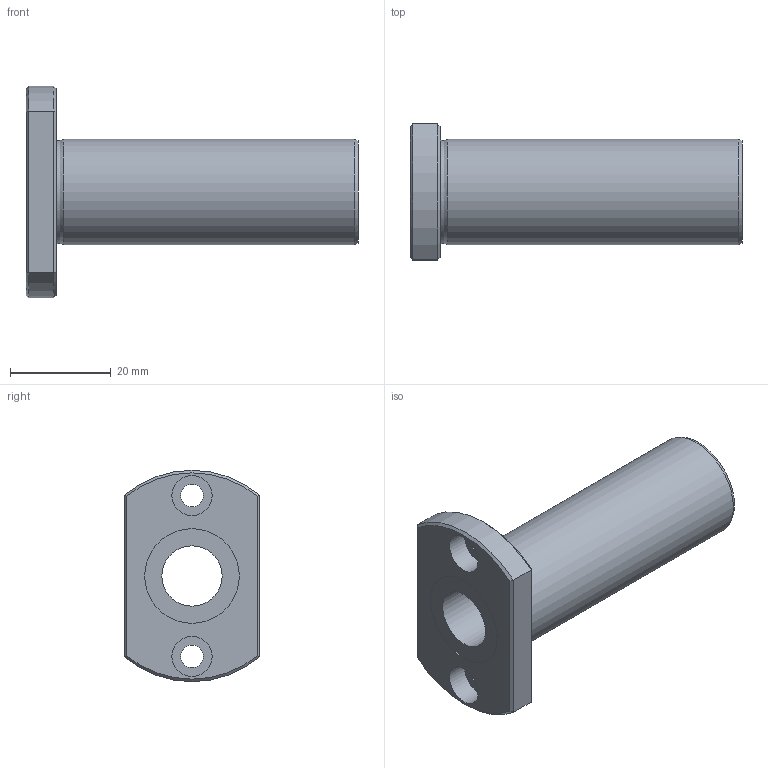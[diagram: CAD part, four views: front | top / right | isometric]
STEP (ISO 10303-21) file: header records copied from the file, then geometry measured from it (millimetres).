
FILE_DESCRIPTION((''),'2;1');
FILE_NAME('D:\製品 (図面)\カタログ用3D\メンテナンスフリー関連\STEP形式\LFDT-MF\LFDT12MF.stp','2010-06-01T15:50:18',('Tsuchiya'),(''),'Autodesk Inventor 10','Autodesk Inventor 10','');
FILE_SCHEMA(('AUTOMOTIVE_DESIGN { 1 0 10303 214 1 1 1 1 }'));
Length unit declared in the file: millimetre
Products named in the file (1): LFDT12MF
Bounding box: 66 x 27 x 42 mm (x, y, z)
Volume: 19040.3 mm3; surface area: 9189.7 mm2
Topology: 1 solids, 1 shells, 29 faces, 56 edges, 34 vertices
Faces by surface type: plane 13, cylinder 10, cone 4, torus 1, bspline 1
Full cylindrical faces by diameter (mm): 4.5 x2, 8 x2, 12 x1, 18.8 x2, 21 x1
Entity records: 787 total; most frequent: CARTESIAN_POINT 196, DIRECTION 122, ORIENTED_EDGE 92, AXIS2_PLACEMENT_3D 55, EDGE_LOOP 50, EDGE_CURVE 46, VERTEX_POINT 34, FACE_OUTER_BOUND 29
